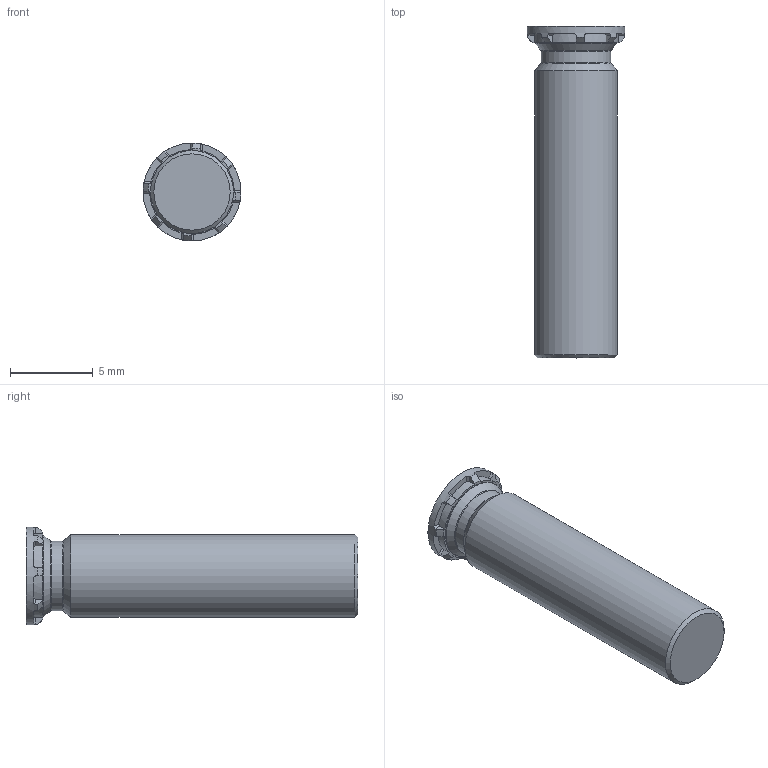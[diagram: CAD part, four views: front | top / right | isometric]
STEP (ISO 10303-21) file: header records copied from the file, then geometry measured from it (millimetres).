
FILE_DESCRIPTION(/* description */ (''),/* implementation_level */ '2;1');
FILE_NAME(/* name */ 'C:\Users\keval.kumar\Desktop\Fastit\Clinch Screw- Reduced FH Range\M5\Clinch Screw-Reduced FH Range_M5x20.stp',/* time_stamp */ '2024-03-12T14:08:49+06:00',/* author */ ('keval.kumar'),/* organization */ (''),/* preprocessor_version */ 'ST-DEVELOPER v18.1',/* originating_system */ 'Autodesk Inventor 2022',/* authorisation */ '');
FILE_SCHEMA (('AUTOMOTIVE_DESIGN { 1 0 10303 214 3 1 1 }'));
Length unit declared in the file: millimetre
Products named in the file (1): Clinch Screw-Reduced FH Range_M5x20
Bounding box: 5.9 x 20 x 5.9 mm (x, y, z)
Volume: 389.8 mm3; surface area: 371.6 mm2
Topology: 1 solids, 1 shells, 68 faces, 193 edges, 128 vertices
Faces by surface type: plane 43, cylinder 12, cone 11, torus 2
Full cylindrical faces by diameter (mm): 4.2 x1, 4.9 x1, 5 x1, 5.9 x1
Entity records: 2286 total; most frequent: DIRECTION 413, CARTESIAN_POINT 406, ORIENTED_EDGE 386, EDGE_CURVE 193, AXIS2_PLACEMENT_3D 159, VERTEX_POINT 128, LINE 95, VECTOR 95
